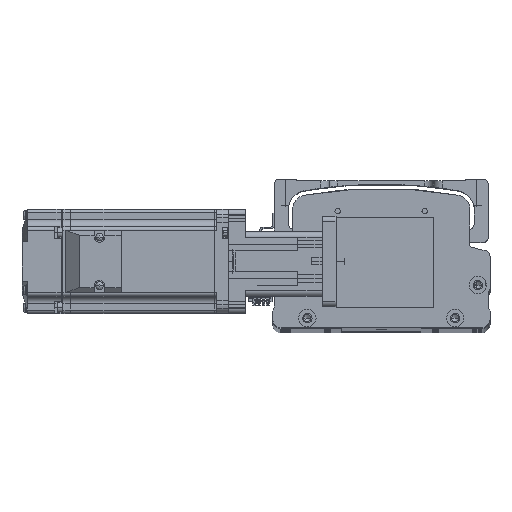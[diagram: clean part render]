
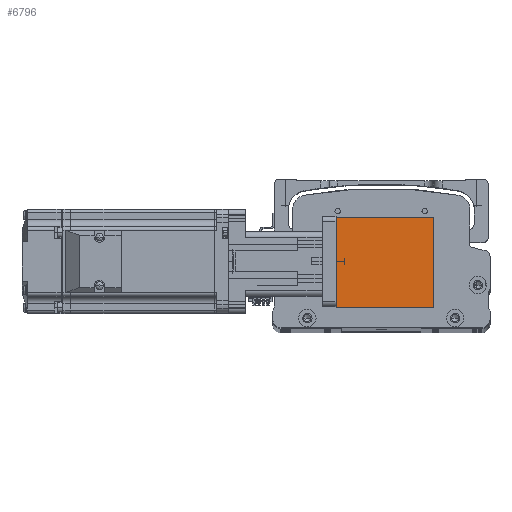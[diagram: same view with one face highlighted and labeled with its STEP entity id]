
A CAD part, top view. The second image highlights one B-rep face of the part: STEP entity #6796.
In plain terms, the highlighted planar face has unit normal (0, 0, 1) as drawn and (-1, 0, 0) by its records, which use the part's own axes.
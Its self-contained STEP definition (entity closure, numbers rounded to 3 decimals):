
#2620 = LINE ( 'NONE', #38651, #54010 ) ;
#6796 = ADVANCED_FACE ( 'NONE', ( #45480 ), #11433, .F. ) ;
#8669 = ORIENTED_EDGE ( 'NONE', *, *, #56396, .F. ) ;
#10043 = ORIENTED_EDGE ( 'NONE', *, *, #31461, .F. ) ;
#11433 = PLANE ( 'NONE',  #58627 ) ;
#13904 = VERTEX_POINT ( 'NONE', #60323 ) ;
#14631 = VERTEX_POINT ( 'NONE', #47543 ) ;
#15190 = VECTOR ( 'NONE', #40726, 1000. ) ;
#16465 = DIRECTION ( 'NONE',  ( 0., 0., -1. ) ) ;
#16617 = DIRECTION ( 'NONE',  ( 0., -1., 0. ) ) ;
#18823 = CARTESIAN_POINT ( 'NONE',  ( -31.5, 26., 56. ) ) ;
#19076 = DIRECTION ( 'NONE',  ( 0., 0., -1. ) ) ;
#19451 = CARTESIAN_POINT ( 'NONE',  ( -31.5, -26., 56. ) ) ;
#20074 = EDGE_CURVE ( 'NONE', #14631, #13904, #42982, .T. ) ;
#25406 = CARTESIAN_POINT ( 'NONE',  ( -31.5, -26., 56. ) ) ;
#30807 = ORIENTED_EDGE ( 'NONE', *, *, #64584, .T. ) ;
#31286 = VECTOR ( 'NONE', #16617, 1000. ) ;
#31461 = EDGE_CURVE ( 'NONE', #55245, #47303, #54896, .T. ) ;
#35671 = CARTESIAN_POINT ( 'NONE',  ( -31.5, -26., 56. ) ) ;
#38651 = CARTESIAN_POINT ( 'NONE',  ( -31.5, -26., 56. ) ) ;
#38868 = DIRECTION ( 'NONE',  ( 0., 0., -1. ) ) ;
#40726 = DIRECTION ( 'NONE',  ( 0., -1., 0. ) ) ;
#41504 = VECTOR ( 'NONE', #19076, 1000. ) ;
#42982 = LINE ( 'NONE', #51430, #31286 ) ;
#44884 = ORIENTED_EDGE ( 'NONE', *, *, #20074, .T. ) ;
#45480 = FACE_OUTER_BOUND ( 'NONE', #48864, .T. ) ;
#46236 = DIRECTION ( 'NONE',  ( 1., 0., 0. ) ) ;
#47303 = VERTEX_POINT ( 'NONE', #19451 ) ;
#47543 = CARTESIAN_POINT ( 'NONE',  ( -31.5, 26., 0. ) ) ;
#48864 = EDGE_LOOP ( 'NONE', ( #44884, #8669, #10043, #30807 ) ) ;
#51430 = CARTESIAN_POINT ( 'NONE',  ( -31.5, -26., 0. ) ) ;
#53922 = CARTESIAN_POINT ( 'NONE',  ( -31.5, 26., 56. ) ) ;
#54010 = VECTOR ( 'NONE', #38868, 1000. ) ;
#54794 = LINE ( 'NONE', #53922, #41504 ) ;
#54896 = LINE ( 'NONE', #35671, #15190 ) ;
#55245 = VERTEX_POINT ( 'NONE', #18823 ) ;
#56396 = EDGE_CURVE ( 'NONE', #47303, #13904, #2620, .T. ) ;
#58627 = AXIS2_PLACEMENT_3D ( 'NONE', #25406, #46236, #16465 ) ;
#60323 = CARTESIAN_POINT ( 'NONE',  ( -31.5, -26., 0. ) ) ;
#64584 = EDGE_CURVE ( 'NONE', #55245, #14631, #54794, .T. ) ;
